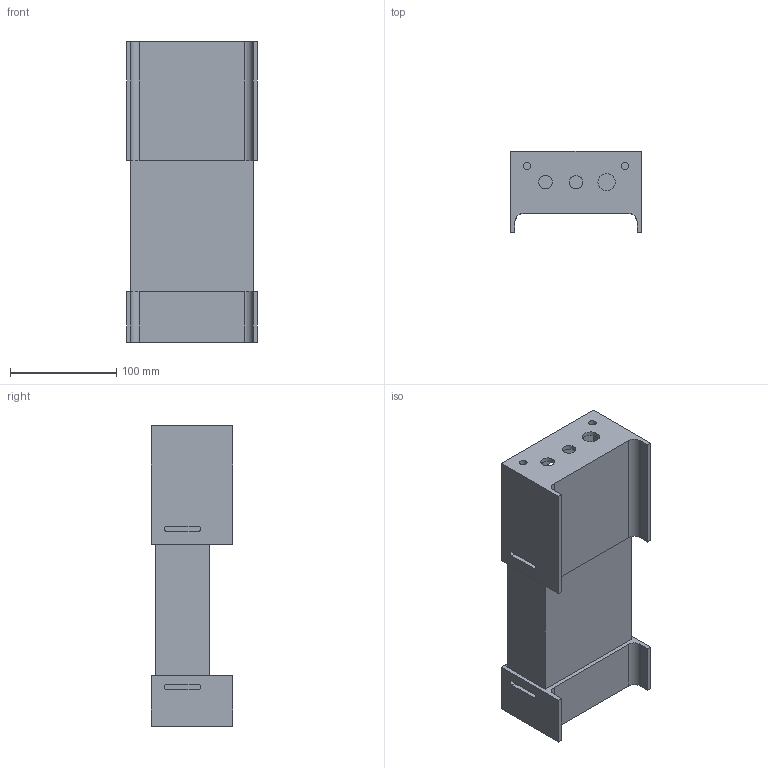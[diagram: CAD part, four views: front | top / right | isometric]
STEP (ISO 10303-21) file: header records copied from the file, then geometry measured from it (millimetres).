
FILE_DESCRIPTION(/* description */ (''),/* implementation_level */ '2;1');
FILE_NAME(/* name */ 'c:\worker\convert-fusion-oct-2018\tmp\job-1\36\output\files\797b93ef-809a-4aab-ade5-20e6d2d5dd9b\e0aee447-073a-44e3-8330-94c0d42c83ba.stp',/* time_stamp */ '2018-10-12T06:21:48+00:00',/* author */ (''),/* organization */ (''),/* preprocessor_version */ 'ST-DEVELOPER v17.2',/* originating_system */ 'Autodesk Translation Framework v7.6.0.251',/* authorisation */ '');
FILE_SCHEMA (('AUTOMOTIVE_DESIGN { 1 0 10303 214 3 1 1 }'));
Length unit declared in the file: millimetre
Products named in the file (4): powerSupply24vdc; supply; back; front
Assembly tree (3 placements, depth 2):
  powerSupply24vdc
    supply
    back
    front
Bounding box: 123 x 76.5 x 283 mm (x, y, z)
Volume: 1509459.9 mm3; surface area: 217071.6 mm2
Topology: 3 solids, 3 shells, 84 faces, 226 edges, 149 vertices
Faces by surface type: plane 56, cylinder 27, bspline 1
Full cylindrical faces by diameter (mm): 2.4 x2, 7 x2, 10 x1, 12.3 x1, 12.8 x1, 16.2 x1
Entity records: 2844 total; most frequent: CARTESIAN_POINT 484, DIRECTION 467, ORIENTED_EDGE 452, EDGE_CURVE 226, LINE 167, VECTOR 167, AXIS2_PLACEMENT_3D 150, VERTEX_POINT 149
